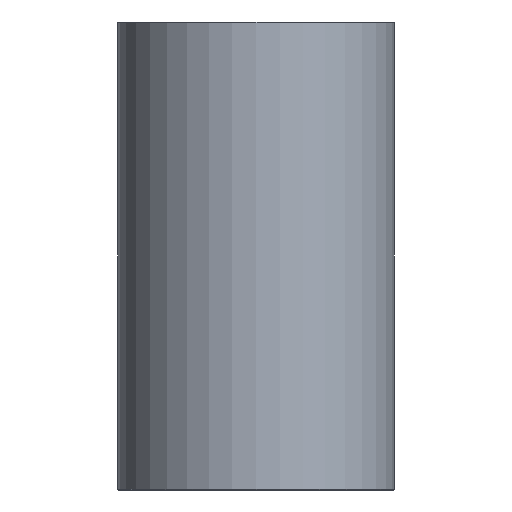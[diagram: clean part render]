
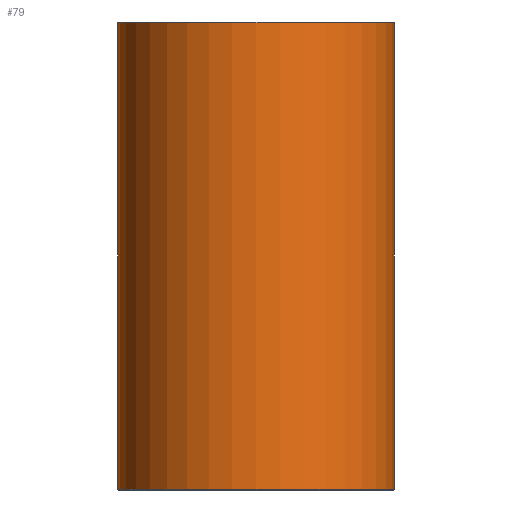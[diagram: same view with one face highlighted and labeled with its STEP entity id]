
A CAD part, front view. The second image highlights one B-rep face of the part: STEP entity #79.
In plain terms, the highlighted cylindrical face has radius 35.5 mm (diameter 71 mm), a full revolution.
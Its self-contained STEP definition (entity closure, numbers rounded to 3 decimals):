
#79=ADVANCED_FACE('',(#96,#97),#98,.T.);
#96=FACE_OUTER_BOUND('',#120,.T.);
#97=FACE_OUTER_BOUND('',#121,.T.);
#98=CYLINDRICAL_SURFACE('',#122,35.5);
#120=EDGE_LOOP('',(#152));
#121=EDGE_LOOP('',(#153));
#122=AXIS2_PLACEMENT_3D('',#154,#155,#156);
#152=ORIENTED_EDGE('',*,*,#178,.T.);
#153=ORIENTED_EDGE('',*,*,#177,.T.);
#154=CARTESIAN_POINT('',(0.0,0.0,120.0));
#155=DIRECTION('',(0.0,0.0,-1.0));
#156=DIRECTION('',(-1.0,0.0,0.0));
#177=EDGE_CURVE('',#190,#190,#191,.T.);
#178=EDGE_CURVE('',#192,#192,#193,.F.);
#190=VERTEX_POINT('',#206);
#191=CIRCLE('',#207,35.5);
#192=VERTEX_POINT('',#208);
#193=CIRCLE('',#209,35.5);
#206=CARTESIAN_POINT('',(35.5,0.0,0.2));
#207=AXIS2_PLACEMENT_3D('',#227,#228,#229);
#208=CARTESIAN_POINT('',(35.5,0.,119.8));
#209=AXIS2_PLACEMENT_3D('',#230,#231,#232);
#227=CARTESIAN_POINT('',(0.0,0.0,0.2));
#228=DIRECTION('',(0.0,0.0,1.0));
#229=DIRECTION('',(1.0,0.0,0.0));
#230=CARTESIAN_POINT('',(0.0,0.0,119.8));
#231=DIRECTION('',(0.0,0.0,1.0));
#232=DIRECTION('',(1.0,0.0,0.0));
